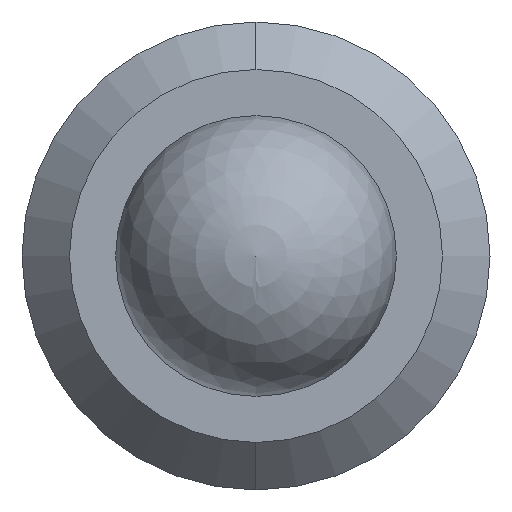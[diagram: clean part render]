
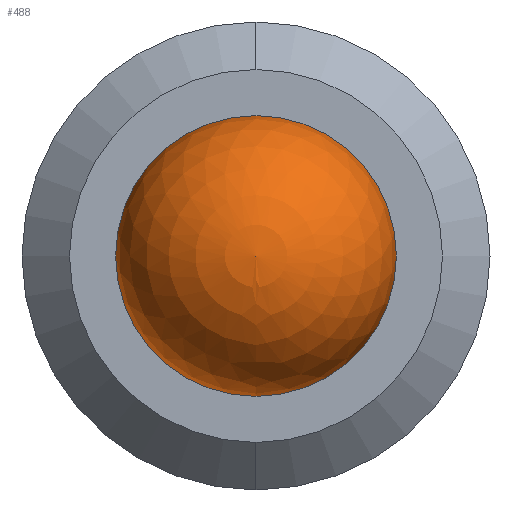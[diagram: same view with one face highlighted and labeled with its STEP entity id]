
A CAD part, left-side view. The second image highlights one B-rep face of the part: STEP entity #488.
In plain terms, the highlighted spherical face has radius 0.75 mm.
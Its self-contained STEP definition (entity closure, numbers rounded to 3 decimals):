
#15 = DIRECTION ( 'NONE',  ( 1., 0., 0. ) ) ;
#53 = DIRECTION ( 'NONE',  ( -1., 0., 0. ) ) ;
#120 = VERTEX_POINT ( 'NONE', #596 ) ;
#148 = VERTEX_POINT ( 'NONE', #220 ) ;
#154 = SPHERICAL_SURFACE ( 'NONE', #549, 0.75 ) ;
#170 = CIRCLE ( 'NONE', #526, 0.75 ) ;
#176 = EDGE_LOOP ( 'NONE', ( #217, #205 ) ) ;
#190 = DIRECTION ( 'NONE',  ( 1., 0., 0. ) ) ;
#201 = AXIS2_PLACEMENT_3D ( 'NONE', #469, #190, #519 ) ;
#205 = ORIENTED_EDGE ( 'NONE', *, *, #309, .T. ) ;
#217 = ORIENTED_EDGE ( 'NONE', *, *, #389, .F. ) ;
#220 = CARTESIAN_POINT ( 'NONE',  ( 0., -0.75, 0. ) ) ;
#290 = DIRECTION ( 'NONE',  ( 0., 0., -1. ) ) ;
#309 = EDGE_CURVE ( 'NONE', #120, #148, #170, .T. ) ;
#325 = CARTESIAN_POINT ( 'NONE',  ( 0., 0., 0. ) ) ;
#372 = DIRECTION ( 'NONE',  ( 0., 0., 1. ) ) ;
#389 = EDGE_CURVE ( 'NONE', #120, #148, #521, .T. ) ;
#400 = FACE_OUTER_BOUND ( 'NONE', #176, .T. ) ;
#469 = CARTESIAN_POINT ( 'NONE',  ( 0., 0., 0. ) ) ;
#488 = ADVANCED_FACE ( 'NONE', ( #400 ), #154, .T. ) ;
#519 = DIRECTION ( 'NONE',  ( 0., 0., -1. ) ) ;
#521 = CIRCLE ( 'NONE', #201, 0.75 ) ;
#526 = AXIS2_PLACEMENT_3D ( 'NONE', #325, #53, #372 ) ;
#549 = AXIS2_PLACEMENT_3D ( 'NONE', #572, #15, #290 ) ;
#572 = CARTESIAN_POINT ( 'NONE',  ( 0., 0., 0. ) ) ;
#596 = CARTESIAN_POINT ( 'NONE',  ( 0., 0.75, 0. ) ) ;
